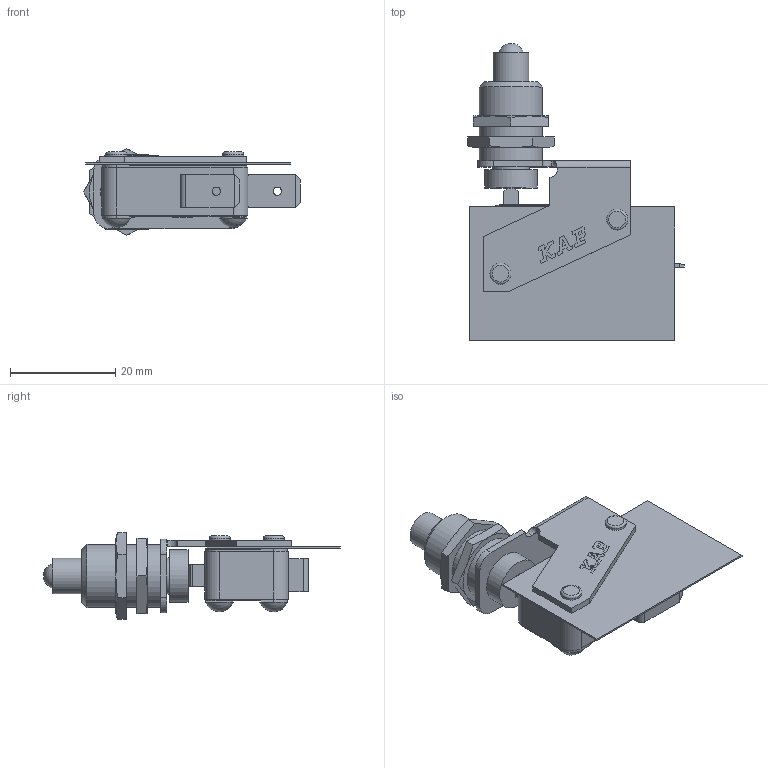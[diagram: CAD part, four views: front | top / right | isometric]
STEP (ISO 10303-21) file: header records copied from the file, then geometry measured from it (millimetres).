
FILE_DESCRIPTION(('Microrutor Miniatura Mecanismo Acao Lenta c/ Ruptura Positiva Contato NF Atuador de Botao p/ Acionamento Mecanico Terminal Faston 6.3'),'2;1');
FILE_NAME('E:\WorkFolder\Bibl\3DWeb\kp_mv_mvkcea$_step.stp','2019-11-26T08:12:17',('DIE'),('KAP Componentes Eletricos Ltda.'),'Autodesk Inventor 2011','Autodesk Inventor 2011','Direitos reservados. Proibido reproducao, cedencia ou revelacao de conteudo a terceiros, salvo com autorizacao.');
FILE_SCHEMA(('AUTOMOTIVE_DESIGN { 1 0 10303 214 1 1 1 1 }'));
Length unit declared in the file: millimetre
Products named in the file (3): MVKCEA$; MVKAEA$; MV_Atuador_CK
Assembly tree (2 placements, depth 2):
  MVKCEA$
    MVKAEA$
    MV_Atuador_CK
Bounding box: 41.25 x 56.48 x 16.5 mm (x, y, z)
Volume: 8137.2 mm3; surface area: 7245.3 mm2
Topology: 4 solids, 4 shells, 414 faces, 1077 edges, 712 vertices
Faces by surface type: plane 331, cylinder 64, cone 13, sphere 3, torus 2, bspline 1
Full cylindrical faces by diameter (mm): 1.6 x2, 3 x1, 3.1 x2, 4 x2, 4.2 x1, 6.8 x1, 7 x1, 10 x1, 12 x1, 12.04 x2
Entity records: 12730 total; most frequent: CARTESIAN_POINT 2404, ORIENTED_EDGE 2108, DIRECTION 2008, EDGE_CURVE 1054, VECTOR 884, LINE 884, VERTEX_POINT 706, AXIS2_PLACEMENT_3D 562
